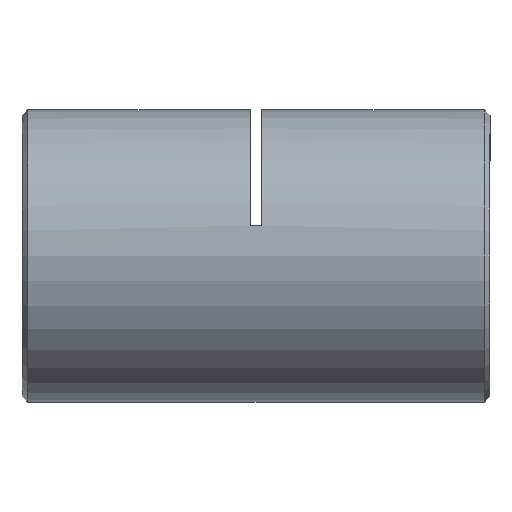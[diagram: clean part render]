
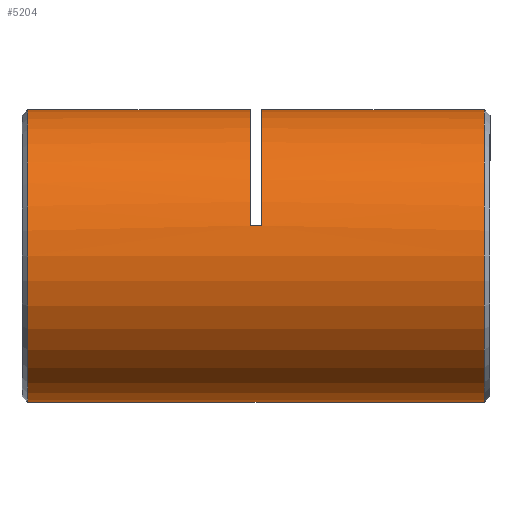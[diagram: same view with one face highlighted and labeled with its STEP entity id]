
A CAD part, left-side view. The second image highlights one B-rep face of the part: STEP entity #5204.
In plain terms, the highlighted cylindrical face has radius 12.5 mm (diameter 25 mm), a partial arc.
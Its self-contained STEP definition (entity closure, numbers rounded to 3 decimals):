
#83 = EDGE_CURVE ( 'NONE', #3165, #1426, #2230, .T. ) ;
#152 = DIRECTION ( 'NONE',  ( 0., 1., 0. ) ) ;
#281 = CIRCLE ( 'NONE', #1972, 12.5 ) ;
#354 = DIRECTION ( 'NONE',  ( 0., 0., 1. ) ) ;
#375 = VERTEX_POINT ( 'NONE', #2446 ) ;
#387 = CARTESIAN_POINT ( 'NONE',  ( 0., 39.75, 0. ) ) ;
#425 = LINE ( 'NONE', #4885, #4214 ) ;
#432 = DIRECTION ( 'NONE',  ( 0., -1., 0. ) ) ;
#444 = DIRECTION ( 'NONE',  ( 0., -1., 0. ) ) ;
#494 = CARTESIAN_POINT ( 'NONE',  ( 0., 40.5, 12.5 ) ) ;
#571 = DIRECTION ( 'NONE',  ( 0., -1., 0. ) ) ;
#597 = ORIENTED_EDGE ( 'NONE', *, *, #2009, .T. ) ;
#635 = CARTESIAN_POINT ( 'NONE',  ( 0., 0.75, -12.5 ) ) ;
#744 = VERTEX_POINT ( 'NONE', #635 ) ;
#969 = AXIS2_PLACEMENT_3D ( 'NONE', #2350, #571, #4620 ) ;
#983 = ORIENTED_EDGE ( 'NONE', *, *, #1139, .T. ) ;
#1114 = VERTEX_POINT ( 'NONE', #2074 ) ;
#1139 = EDGE_CURVE ( 'NONE', #5662, #1114, #281, .T. ) ;
#1189 = ORIENTED_EDGE ( 'NONE', *, *, #5439, .F. ) ;
#1224 = VECTOR ( 'NONE', #432, 1000. ) ;
#1234 = CARTESIAN_POINT ( 'NONE',  ( 0., 19.75, 12.5 ) ) ;
#1307 = VECTOR ( 'NONE', #2808, 1000. ) ;
#1408 = AXIS2_PLACEMENT_3D ( 'NONE', #4212, #152, #1953 ) ;
#1426 = VERTEX_POINT ( 'NONE', #5563 ) ;
#1459 = EDGE_CURVE ( 'NONE', #5662, #1426, #2873, .T. ) ;
#1672 = CARTESIAN_POINT ( 'NONE',  ( 0., 19.75, 0. ) ) ;
#1811 = AXIS2_PLACEMENT_3D ( 'NONE', #1672, #3503, #5472 ) ;
#1924 = CYLINDRICAL_SURFACE ( 'NONE', #969, 12.5 ) ;
#1953 = DIRECTION ( 'NONE',  ( 0., 0., 1. ) ) ;
#1972 = AXIS2_PLACEMENT_3D ( 'NONE', #387, #444, #5746 ) ;
#2009 = EDGE_CURVE ( 'NONE', #375, #3165, #425, .T. ) ;
#2074 = CARTESIAN_POINT ( 'NONE',  ( 0., 39.75, -12.5 ) ) ;
#2077 = CIRCLE ( 'NONE', #1408, 12.5 ) ;
#2230 = CIRCLE ( 'NONE', #4024, 12.5 ) ;
#2350 = CARTESIAN_POINT ( 'NONE',  ( 0., 40.5, 0. ) ) ;
#2446 = CARTESIAN_POINT ( 'NONE',  ( -12.226, 19.75, 2.604 ) ) ;
#2596 = CARTESIAN_POINT ( 'NONE',  ( 0., 20.75, 0. ) ) ;
#2689 = EDGE_CURVE ( 'NONE', #744, #4597, #2077, .T. ) ;
#2731 = CARTESIAN_POINT ( 'NONE',  ( 0., 0.75, 12.5 ) ) ;
#2808 = DIRECTION ( 'NONE',  ( 0., -1., 0. ) ) ;
#2873 = LINE ( 'NONE', #4832, #4723 ) ;
#2900 = EDGE_CURVE ( 'NONE', #5011, #4597, #5529, .T. ) ;
#2903 = CARTESIAN_POINT ( 'NONE',  ( 0., 39.75, 12.5 ) ) ;
#2945 = ORIENTED_EDGE ( 'NONE', *, *, #2900, .F. ) ;
#3126 = ORIENTED_EDGE ( 'NONE', *, *, #2689, .T. ) ;
#3165 = VERTEX_POINT ( 'NONE', #4770 ) ;
#3411 = DIRECTION ( 'NONE',  ( 0., 1., 0. ) ) ;
#3503 = DIRECTION ( 'NONE',  ( 0., 1., 0. ) ) ;
#3666 = FACE_OUTER_BOUND ( 'NONE', #4983, .T. ) ;
#3850 = ORIENTED_EDGE ( 'NONE', *, *, #83, .T. ) ;
#3981 = CARTESIAN_POINT ( 'NONE',  ( 0., 40.5, -12.5 ) ) ;
#4024 = AXIS2_PLACEMENT_3D ( 'NONE', #2596, #3411, #354 ) ;
#4115 = ORIENTED_EDGE ( 'NONE', *, *, #1459, .F. ) ;
#4212 = CARTESIAN_POINT ( 'NONE',  ( 0., 0.75, 0. ) ) ;
#4214 = VECTOR ( 'NONE', #4442, 1000. ) ;
#4442 = DIRECTION ( 'NONE',  ( 0., 1., 0. ) ) ;
#4455 = CIRCLE ( 'NONE', #1811, 12.5 ) ;
#4581 = EDGE_CURVE ( 'NONE', #1114, #744, #4925, .T. ) ;
#4597 = VERTEX_POINT ( 'NONE', #2731 ) ;
#4620 = DIRECTION ( 'NONE',  ( 0., 0., -1. ) ) ;
#4625 = ORIENTED_EDGE ( 'NONE', *, *, #4581, .T. ) ;
#4723 = VECTOR ( 'NONE', #5313, 1000. ) ;
#4770 = CARTESIAN_POINT ( 'NONE',  ( -12.226, 20.75, 2.604 ) ) ;
#4832 = CARTESIAN_POINT ( 'NONE',  ( 0., 40.5, 12.5 ) ) ;
#4885 = CARTESIAN_POINT ( 'NONE',  ( -12.226, 20.25, 2.604 ) ) ;
#4925 = LINE ( 'NONE', #3981, #1224 ) ;
#4983 = EDGE_LOOP ( 'NONE', ( #4115, #983, #4625, #3126, #2945, #1189, #597, #3850 ) ) ;
#5011 = VERTEX_POINT ( 'NONE', #1234 ) ;
#5204 = ADVANCED_FACE ( 'NONE', ( #3666 ), #1924, .T. ) ;
#5313 = DIRECTION ( 'NONE',  ( 0., -1., 0. ) ) ;
#5439 = EDGE_CURVE ( 'NONE', #375, #5011, #4455, .T. ) ;
#5472 = DIRECTION ( 'NONE',  ( 0., 0., 1. ) ) ;
#5529 = LINE ( 'NONE', #494, #1307 ) ;
#5563 = CARTESIAN_POINT ( 'NONE',  ( 0., 20.75, 12.5 ) ) ;
#5662 = VERTEX_POINT ( 'NONE', #2903 ) ;
#5746 = DIRECTION ( 'NONE',  ( 0., 0., -1. ) ) ;
